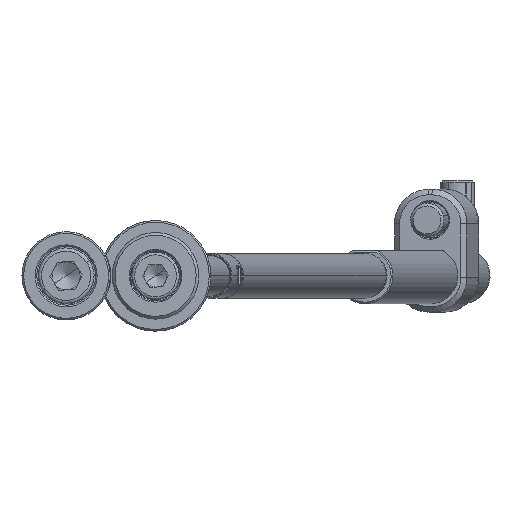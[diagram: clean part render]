
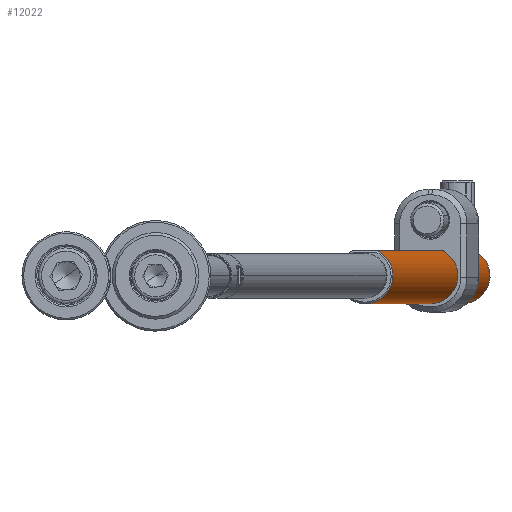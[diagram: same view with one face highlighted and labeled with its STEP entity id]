
A CAD part, front view. The second image highlights one B-rep face of the part: STEP entity #12022.
In plain terms, the highlighted cylindrical face has radius 5 mm (diameter 10 mm), a partial arc.
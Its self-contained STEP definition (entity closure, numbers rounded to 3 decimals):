
#209 = CARTESIAN_POINT ( 'NONE',  ( -5., 0., 0.3 ) ) ;
#268 = CARTESIAN_POINT ( 'NONE',  ( 4.5, -2.179, 12.062 ) ) ;
#532 = EDGE_LOOP ( 'NONE', ( #2443, #12223, #6888, #10511, #4028, #4885 ) ) ;
#819 = CARTESIAN_POINT ( 'NONE',  ( 4.5, -2.179, 7.938 ) ) ;
#836 = CARTESIAN_POINT ( 'NONE',  ( -5., 0., 199.7 ) ) ;
#1237 = CIRCLE ( 'NONE', #6273, 5. ) ;
#1435 = CARTESIAN_POINT ( 'NONE',  ( 4.438, -2.307, 11.926 ) ) ;
#1500 = CARTESIAN_POINT ( 'NONE',  ( 4.259, -2.621, 11.47 ) ) ;
#1548 = VERTEX_POINT ( 'NONE', #9326 ) ;
#1568 = CARTESIAN_POINT ( 'NONE',  ( 4.203, -2.709, 11.303 ) ) ;
#1713 = CARTESIAN_POINT ( 'NONE',  ( 4.068, -2.908, 9.236 ) ) ;
#2056 = CARTESIAN_POINT ( 'NONE',  ( 4.5, -2.179, 200. ) ) ;
#2097 = CARTESIAN_POINT ( 'NONE',  ( 0., 0., 200. ) ) ;
#2264 = DIRECTION ( 'NONE',  ( 0., 0., -1. ) ) ;
#2443 = ORIENTED_EDGE ( 'NONE', *, *, #12815, .T. ) ;
#2477 = EDGE_CURVE ( 'NONE', #2719, #7540, #6736, .T. ) ;
#2607 = EDGE_CURVE ( 'NONE', #10166, #7984, #8509, .T. ) ;
#2658 = CARTESIAN_POINT ( 'NONE',  ( 4.107, -2.852, 9.051 ) ) ;
#2719 = VERTEX_POINT ( 'NONE', #10073 ) ;
#3198 = CIRCLE ( 'NONE', #7343, 5. ) ;
#3590 = CARTESIAN_POINT ( 'NONE',  ( 4.202, -2.711, 8.701 ) ) ;
#4028 = ORIENTED_EDGE ( 'NONE', *, *, #2477, .F. ) ;
#4216 = DIRECTION ( 'NONE',  ( 0., 0., -1. ) ) ;
#4663 = CARTESIAN_POINT ( 'NONE',  ( 4.5, -2.179, 7.938 ) ) ;
#4708 = DIRECTION ( 'NONE',  ( 1., 0., 0. ) ) ;
#4885 = ORIENTED_EDGE ( 'NONE', *, *, #14066, .F. ) ;
#5814 = CARTESIAN_POINT ( 'NONE',  ( 4.069, -2.906, 10.771 ) ) ;
#5987 = EDGE_CURVE ( 'NONE', #7540, #11069, #11977, .T. ) ;
#6273 = AXIS2_PLACEMENT_3D ( 'NONE', #9179, #9112, #4708 ) ;
#6401 = FACE_OUTER_BOUND ( 'NONE', #532, .T. ) ;
#6462 = DIRECTION ( 'NONE',  ( 0., 0., -1. ) ) ;
#6555 = CARTESIAN_POINT ( 'NONE',  ( 4.5, -2.179, 200. ) ) ;
#6736 = B_SPLINE_CURVE_WITH_KNOTS ( 'NONE', 3,
 ( #268, #1435, #11362, #1500, #1568, #13621, #5814, #13698, #7093, #11496, #9207, #1713, #2658, #3590, #7025, #10441, #9354, #4663 ),
 .UNSPECIFIED., .F., .F.,
 ( 4, 2, 2, 2, 2, 2, 2, 2, 4 ),
 ( 0., 0.001, 0.001, 0.002, 0.002, 0.003, 0.003, 0.004, 0.005 ),
 .UNSPECIFIED. ) ;
#6888 = ORIENTED_EDGE ( 'NONE', *, *, #10651, .T. ) ;
#7025 = CARTESIAN_POINT ( 'NONE',  ( 4.258, -2.623, 8.532 ) ) ;
#7093 = CARTESIAN_POINT ( 'NONE',  ( 4., -3., 10.198 ) ) ;
#7343 = AXIS2_PLACEMENT_3D ( 'NONE', #10544, #10620, #9467 ) ;
#7540 = VERTEX_POINT ( 'NONE', #819 ) ;
#7984 = VERTEX_POINT ( 'NONE', #209 ) ;
#8509 = LINE ( 'NONE', #13860, #8897 ) ;
#8897 = VECTOR ( 'NONE', #11936, 1000. ) ;
#9112 = DIRECTION ( 'NONE',  ( 0., 0., -1. ) ) ;
#9179 = CARTESIAN_POINT ( 'NONE',  ( 0., 0., 199.7 ) ) ;
#9207 = CARTESIAN_POINT ( 'NONE',  ( 4.014, -2.982, 9.617 ) ) ;
#9326 = CARTESIAN_POINT ( 'NONE',  ( 4.5, -2.179, 199.7 ) ) ;
#9354 = CARTESIAN_POINT ( 'NONE',  ( 4.438, -2.308, 8.074 ) ) ;
#9467 = DIRECTION ( 'NONE',  ( 1., 0., 0. ) ) ;
#9882 = CARTESIAN_POINT ( 'NONE',  ( 4.5, -2.179, 0.3 ) ) ;
#10073 = CARTESIAN_POINT ( 'NONE',  ( 4.5, -2.179, 12.062 ) ) ;
#10166 = VERTEX_POINT ( 'NONE', #836 ) ;
#10441 = CARTESIAN_POINT ( 'NONE',  ( 4.376, -2.422, 8.22 ) ) ;
#10511 = ORIENTED_EDGE ( 'NONE', *, *, #5987, .F. ) ;
#10544 = CARTESIAN_POINT ( 'NONE',  ( 0., 0., 0.3 ) ) ;
#10620 = DIRECTION ( 'NONE',  ( 0., 0., 1. ) ) ;
#10651 = EDGE_CURVE ( 'NONE', #7984, #11069, #3198, .T. ) ;
#10807 = CYLINDRICAL_SURFACE ( 'NONE', #11541, 5. ) ;
#10871 = DIRECTION ( 'NONE',  ( -1., 0., 0. ) ) ;
#11065 = VECTOR ( 'NONE', #2264, 1000. ) ;
#11069 = VERTEX_POINT ( 'NONE', #9882 ) ;
#11362 = CARTESIAN_POINT ( 'NONE',  ( 4.376, -2.421, 11.781 ) ) ;
#11496 = CARTESIAN_POINT ( 'NONE',  ( 4., -3., 9.809 ) ) ;
#11541 = AXIS2_PLACEMENT_3D ( 'NONE', #2097, #6462, #10871 ) ;
#11936 = DIRECTION ( 'NONE',  ( 0., 0., -1. ) ) ;
#11977 = LINE ( 'NONE', #6555, #11065 ) ;
#12022 = ADVANCED_FACE ( 'NONE', ( #6401 ), #10807, .T. ) ;
#12223 = ORIENTED_EDGE ( 'NONE', *, *, #2607, .T. ) ;
#12815 = EDGE_CURVE ( 'NONE', #1548, #10166, #1237, .T. ) ;
#13595 = VECTOR ( 'NONE', #4216, 1000. ) ;
#13621 = CARTESIAN_POINT ( 'NONE',  ( 4.108, -2.851, 10.952 ) ) ;
#13698 = CARTESIAN_POINT ( 'NONE',  ( 4.015, -2.98, 10.396 ) ) ;
#13860 = CARTESIAN_POINT ( 'NONE',  ( -5., 0., 200. ) ) ;
#14032 = LINE ( 'NONE', #2056, #13595 ) ;
#14066 = EDGE_CURVE ( 'NONE', #1548, #2719, #14032, .T. ) ;
